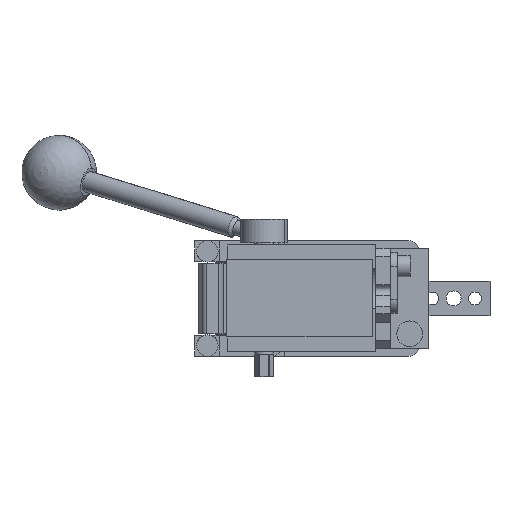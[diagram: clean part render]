
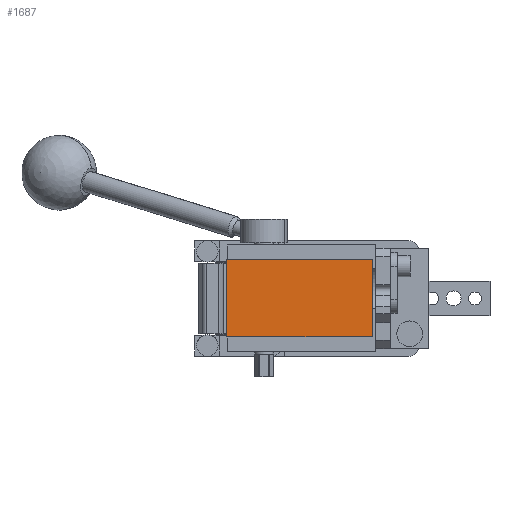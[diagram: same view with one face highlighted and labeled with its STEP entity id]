
A CAD part, front view. The second image highlights one B-rep face of the part: STEP entity #1687.
In plain terms, the highlighted planar face has unit normal (0, -1, 0).
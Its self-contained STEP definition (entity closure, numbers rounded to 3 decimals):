
#793 = VECTOR ( 'NONE', #14064, 1000. ) ;
#1160 = EDGE_CURVE ( 'NONE', #8400, #6548, #2110, .T. ) ;
#1687 = ADVANCED_FACE ( 'NONE', ( #8865 ), #2950, .T. ) ;
#1753 = DIRECTION ( 'NONE',  ( 0., -1., 0. ) ) ;
#2110 = LINE ( 'NONE', #5672, #8641 ) ;
#2379 = VECTOR ( 'NONE', #14530, 1000. ) ;
#2950 = PLANE ( 'NONE',  #3133 ) ;
#3133 = AXIS2_PLACEMENT_3D ( 'NONE', #12459, #1753, #6575 ) ;
#3536 = CARTESIAN_POINT ( 'NONE',  ( -6., -233., -18. ) ) ;
#3720 = LINE ( 'NONE', #13243, #2379 ) ;
#3883 = ORIENTED_EDGE ( 'NONE', *, *, #1160, .T. ) ;
#4453 = ORIENTED_EDGE ( 'NONE', *, *, #9311, .T. ) ;
#4640 = DIRECTION ( 'NONE',  ( 0., 0., 1. ) ) ;
#5487 = LINE ( 'NONE', #10452, #793 ) ;
#5672 = CARTESIAN_POINT ( 'NONE',  ( 62., -233., 18. ) ) ;
#6548 = VERTEX_POINT ( 'NONE', #8494 ) ;
#6575 = DIRECTION ( 'NONE',  ( 0., 0., -1. ) ) ;
#7702 = EDGE_LOOP ( 'NONE', ( #11030, #4453, #3883, #7743 ) ) ;
#7715 = VERTEX_POINT ( 'NONE', #11183 ) ;
#7743 = ORIENTED_EDGE ( 'NONE', *, *, #12812, .T. ) ;
#8400 = VERTEX_POINT ( 'NONE', #13603 ) ;
#8494 = CARTESIAN_POINT ( 'NONE',  ( 62., -233., 18. ) ) ;
#8641 = VECTOR ( 'NONE', #4640, 1000. ) ;
#8865 = FACE_OUTER_BOUND ( 'NONE', #7702, .T. ) ;
#9311 = EDGE_CURVE ( 'NONE', #7715, #8400, #12356, .T. ) ;
#9498 = CARTESIAN_POINT ( 'NONE',  ( -6., -233., 18. ) ) ;
#9931 = VECTOR ( 'NONE', #14686, 1000. ) ;
#10381 = EDGE_CURVE ( 'NONE', #14061, #7715, #3720, .T. ) ;
#10452 = CARTESIAN_POINT ( 'NONE',  ( -6., -233., 18. ) ) ;
#11030 = ORIENTED_EDGE ( 'NONE', *, *, #10381, .T. ) ;
#11183 = CARTESIAN_POINT ( 'NONE',  ( -6., -233., -18. ) ) ;
#12356 = LINE ( 'NONE', #3536, #9931 ) ;
#12459 = CARTESIAN_POINT ( 'NONE',  ( 0., -233., 0. ) ) ;
#12812 = EDGE_CURVE ( 'NONE', #6548, #14061, #5487, .T. ) ;
#13243 = CARTESIAN_POINT ( 'NONE',  ( -6., -233., 18. ) ) ;
#13603 = CARTESIAN_POINT ( 'NONE',  ( 62., -233., -18. ) ) ;
#14061 = VERTEX_POINT ( 'NONE', #9498 ) ;
#14064 = DIRECTION ( 'NONE',  ( -1., 0., 0. ) ) ;
#14530 = DIRECTION ( 'NONE',  ( 0., 0., -1. ) ) ;
#14686 = DIRECTION ( 'NONE',  ( 1., 0., 0. ) ) ;
